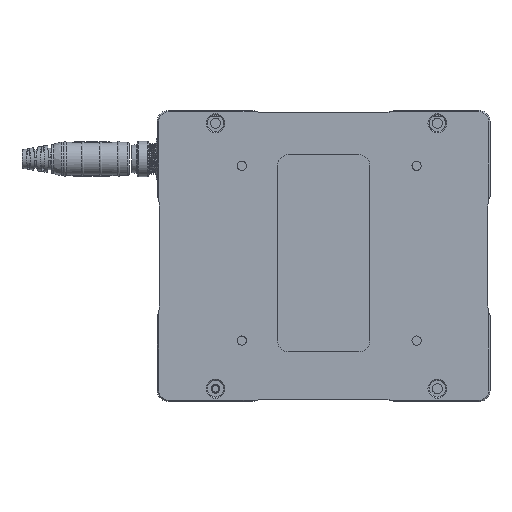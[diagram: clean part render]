
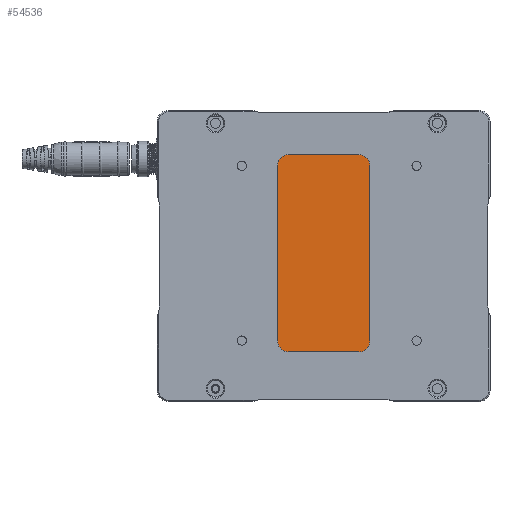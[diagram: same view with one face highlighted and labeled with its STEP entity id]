
A CAD part, front view. The second image highlights one B-rep face of the part: STEP entity #54536.
In plain terms, the highlighted planar face has unit normal (0, -1, 0).
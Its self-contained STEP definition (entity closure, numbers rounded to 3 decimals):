
#12 = LINE ( 'NONE', #24249, #45650 ) ;
#422 = EDGE_CURVE ( 'NONE', #23049, #13308, #1156, .T. ) ;
#1156 = CIRCLE ( 'NONE', #27809, 4. ) ;
#1790 = AXIS2_PLACEMENT_3D ( 'NONE', #33293, #47002, #10652 ) ;
#3484 = DIRECTION ( 'NONE',  ( 0., -1., 0. ) ) ;
#3970 = ORIENTED_EDGE ( 'NONE', *, *, #422, .T. ) ;
#5833 = DIRECTION ( 'NONE',  ( 0., 0., -1. ) ) ;
#6119 = VERTEX_POINT ( 'NONE', #29823 ) ;
#6444 = DIRECTION ( 'NONE',  ( 0., 0., 1. ) ) ;
#6852 = AXIS2_PLACEMENT_3D ( 'NONE', #10294, #51358, #5833 ) ;
#6927 = AXIS2_PLACEMENT_3D ( 'NONE', #39679, #3484, #52749 ) ;
#6975 = DIRECTION ( 'NONE',  ( 0., 0., 1. ) ) ;
#8515 = ORIENTED_EDGE ( 'NONE', *, *, #9590, .T. ) ;
#9590 = EDGE_CURVE ( 'NONE', #14685, #6119, #39758, .T. ) ;
#10176 = CARTESIAN_POINT ( 'NONE',  ( -16.65, 1.3, 31.6 ) ) ;
#10294 = CARTESIAN_POINT ( 'NONE',  ( -12.65, 1.3, -31.6 ) ) ;
#10652 = DIRECTION ( 'NONE',  ( 0., 0., -1. ) ) ;
#12999 = CARTESIAN_POINT ( 'NONE',  ( 12.65, 1.3, 35.6 ) ) ;
#13308 = VERTEX_POINT ( 'NONE', #43144 ) ;
#13353 = ORIENTED_EDGE ( 'NONE', *, *, #33386, .T. ) ;
#14305 = CARTESIAN_POINT ( 'NONE',  ( -12.65, 1.3, -35.6 ) ) ;
#14426 = DIRECTION ( 'NONE',  ( 0., 0., -1. ) ) ;
#14685 = VERTEX_POINT ( 'NONE', #12999 ) ;
#15718 = DIRECTION ( 'NONE',  ( -1., 0., 0. ) ) ;
#17564 = AXIS2_PLACEMENT_3D ( 'NONE', #24501, #51794, #6444 ) ;
#17669 = ORIENTED_EDGE ( 'NONE', *, *, #43421, .T. ) ;
#18440 = VERTEX_POINT ( 'NONE', #10176 ) ;
#19335 = DIRECTION ( 'NONE',  ( 0., 0., -1. ) ) ;
#21509 = CIRCLE ( 'NONE', #6852, 4. ) ;
#23049 = VERTEX_POINT ( 'NONE', #53511 ) ;
#24249 = CARTESIAN_POINT ( 'NONE',  ( -12.65, 1.3, -35.6 ) ) ;
#24461 = CARTESIAN_POINT ( 'NONE',  ( -16.65, 1.3, 31.6 ) ) ;
#24501 = CARTESIAN_POINT ( 'NONE',  ( 12.65, 1.3, 31.6 ) ) ;
#25669 = PLANE ( 'NONE',  #6927 ) ;
#27494 = DIRECTION ( 'NONE',  ( 0., -1., 0. ) ) ;
#27809 = AXIS2_PLACEMENT_3D ( 'NONE', #41471, #27494, #14426 ) ;
#28206 = EDGE_CURVE ( 'NONE', #31726, #23049, #12, .T. ) ;
#29823 = CARTESIAN_POINT ( 'NONE',  ( -12.65, 1.3, 35.6 ) ) ;
#30218 = CIRCLE ( 'NONE', #1790, 4. ) ;
#31726 = VERTEX_POINT ( 'NONE', #14305 ) ;
#32058 = CARTESIAN_POINT ( 'NONE',  ( 16.65, 1.3, 31.6 ) ) ;
#33293 = CARTESIAN_POINT ( 'NONE',  ( -12.65, 1.3, 31.6 ) ) ;
#33386 = EDGE_CURVE ( 'NONE', #13308, #45241, #35847, .T. ) ;
#33390 = VECTOR ( 'NONE', #15718, 1000. ) ;
#35847 = LINE ( 'NONE', #38284, #49149 ) ;
#38284 = CARTESIAN_POINT ( 'NONE',  ( 16.65, 1.3, 31.6 ) ) ;
#38406 = ORIENTED_EDGE ( 'NONE', *, *, #52363, .T. ) ;
#39679 = CARTESIAN_POINT ( 'NONE',  ( -12.65, 1.3, -31.6 ) ) ;
#39758 = LINE ( 'NONE', #52085, #33390 ) ;
#39891 = LINE ( 'NONE', #24461, #56631 ) ;
#41471 = CARTESIAN_POINT ( 'NONE',  ( 12.65, 1.3, -31.6 ) ) ;
#42574 = CIRCLE ( 'NONE', #17564, 4. ) ;
#42794 = VERTEX_POINT ( 'NONE', #47753 ) ;
#43144 = CARTESIAN_POINT ( 'NONE',  ( 16.65, 1.3, -31.6 ) ) ;
#43421 = EDGE_CURVE ( 'NONE', #45241, #14685, #42574, .T. ) ;
#45241 = VERTEX_POINT ( 'NONE', #32058 ) ;
#45650 = VECTOR ( 'NONE', #47011, 1000. ) ;
#46568 = FACE_OUTER_BOUND ( 'NONE', #49837, .T. ) ;
#47002 = DIRECTION ( 'NONE',  ( 0., -1., 0. ) ) ;
#47011 = DIRECTION ( 'NONE',  ( 1., 0., 0. ) ) ;
#47753 = CARTESIAN_POINT ( 'NONE',  ( -16.65, 1.3, -31.6 ) ) ;
#48701 = ORIENTED_EDGE ( 'NONE', *, *, #52280, .T. ) ;
#49149 = VECTOR ( 'NONE', #6975, 1000. ) ;
#49527 = EDGE_CURVE ( 'NONE', #6119, #18440, #30218, .T. ) ;
#49815 = ORIENTED_EDGE ( 'NONE', *, *, #28206, .T. ) ;
#49837 = EDGE_LOOP ( 'NONE', ( #48701, #49815, #3970, #13353, #17669, #8515, #50690, #38406 ) ) ;
#50690 = ORIENTED_EDGE ( 'NONE', *, *, #49527, .T. ) ;
#51358 = DIRECTION ( 'NONE',  ( 0., -1., 0. ) ) ;
#51794 = DIRECTION ( 'NONE',  ( 0., -1., 0. ) ) ;
#52085 = CARTESIAN_POINT ( 'NONE',  ( -12.65, 1.3, 35.6 ) ) ;
#52280 = EDGE_CURVE ( 'NONE', #42794, #31726, #21509, .T. ) ;
#52363 = EDGE_CURVE ( 'NONE', #18440, #42794, #39891, .T. ) ;
#52749 = DIRECTION ( 'NONE',  ( 0., 0., -1. ) ) ;
#53511 = CARTESIAN_POINT ( 'NONE',  ( 12.65, 1.3, -35.6 ) ) ;
#54536 = ADVANCED_FACE ( 'NONE', ( #46568 ), #25669, .T. ) ;
#56631 = VECTOR ( 'NONE', #19335, 1000. ) ;
